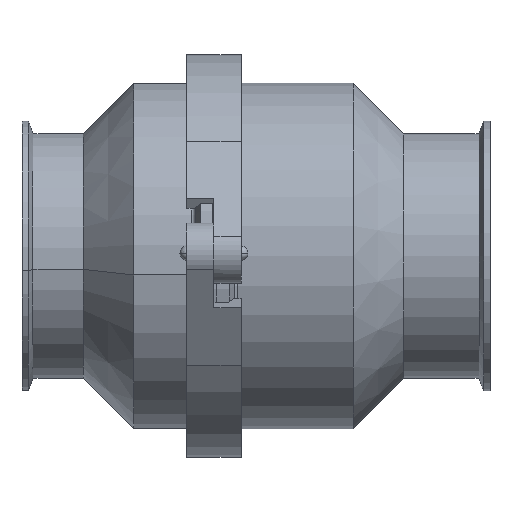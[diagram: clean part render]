
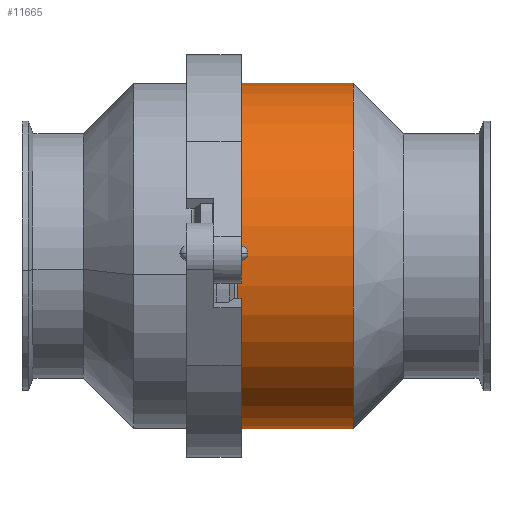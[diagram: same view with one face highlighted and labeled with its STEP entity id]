
A CAD part, left-side view. The second image highlights one B-rep face of the part: STEP entity #11665.
In plain terms, the highlighted cylindrical face has radius 76.2 mm (diameter 152.4 mm), a partial arc.
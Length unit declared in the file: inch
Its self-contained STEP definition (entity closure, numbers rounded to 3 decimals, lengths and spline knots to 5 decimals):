
#266 = CARTESIAN_POINT ( 'NONE',  ( 2.48413, 2.61539, 9.9424 ) ) ;
#352 = CARTESIAN_POINT ( 'NONE',  ( 2.48413, 2.98324, 6.9424 ) ) ;
#528 = CARTESIAN_POINT ( 'NONE',  ( 2.48413, 0.60824, 3.9424 ) ) ;
#582 = EDGE_CURVE ( 'NONE', #9228, #5249, #10992, .T. ) ;
#1033 = CIRCLE ( 'NONE', #5906, 3. ) ;
#1935 = CARTESIAN_POINT ( 'NONE',  ( 2.48413, 2.61539, 6.9424 ) ) ;
#2026 = CARTESIAN_POINT ( 'NONE',  ( 2.48413, 2.98324, 9.9424 ) ) ;
#2149 = EDGE_LOOP ( 'NONE', ( #9177, #7512, #6661, #6691 ) ) ;
#2546 = DIRECTION ( 'NONE',  ( 0., -1., 0. ) ) ;
#3003 = DIRECTION ( 'NONE',  ( 0., 0., -1. ) ) ;
#3100 = DIRECTION ( 'NONE',  ( 0., -1., 0. ) ) ;
#4588 = CARTESIAN_POINT ( 'NONE',  ( 2.48413, 2.61539, 3.9424 ) ) ;
#4630 = AXIS2_PLACEMENT_3D ( 'NONE', #352, #2546, #5792 ) ;
#4898 = FACE_OUTER_BOUND ( 'NONE', #2149, .T. ) ;
#5249 = VERTEX_POINT ( 'NONE', #528 ) ;
#5684 = CARTESIAN_POINT ( 'NONE',  ( 2.48413, 0.60824, 6.9424 ) ) ;
#5792 = DIRECTION ( 'NONE',  ( 0., 0., -1. ) ) ;
#5844 = VERTEX_POINT ( 'NONE', #266 ) ;
#5877 = EDGE_CURVE ( 'NONE', #10678, #5249, #1033, .T. ) ;
#5906 = AXIS2_PLACEMENT_3D ( 'NONE', #5684, #13029, #6748 ) ;
#6661 = ORIENTED_EDGE ( 'NONE', *, *, #582, .T. ) ;
#6691 = ORIENTED_EDGE ( 'NONE', *, *, #5877, .F. ) ;
#6712 = AXIS2_PLACEMENT_3D ( 'NONE', #1935, #9388, #3003 ) ;
#6748 = DIRECTION ( 'NONE',  ( 0., 0., -1. ) ) ;
#6878 = VECTOR ( 'NONE', #3100, 39.37008 ) ;
#7044 = DIRECTION ( 'NONE',  ( 0., -1., 0. ) ) ;
#7512 = ORIENTED_EDGE ( 'NONE', *, *, #12658, .T. ) ;
#7554 = CIRCLE ( 'NONE', #6712, 3. ) ;
#9177 = ORIENTED_EDGE ( 'NONE', *, *, #12726, .F. ) ;
#9228 = VERTEX_POINT ( 'NONE', #4588 ) ;
#9388 = DIRECTION ( 'NONE',  ( 0., -1., 0. ) ) ;
#9638 = CARTESIAN_POINT ( 'NONE',  ( 2.48413, 2.98324, 3.9424 ) ) ;
#10334 = VECTOR ( 'NONE', #7044, 39.37008 ) ;
#10678 = VERTEX_POINT ( 'NONE', #10990 ) ;
#10990 = CARTESIAN_POINT ( 'NONE',  ( 2.48413, 0.60824, 9.9424 ) ) ;
#10992 = LINE ( 'NONE', #9638, #10334 ) ;
#11665 = ADVANCED_FACE ( 'NONE', ( #4898 ), #12332, .T. ) ;
#12332 = CYLINDRICAL_SURFACE ( 'NONE', #4630, 3. ) ;
#12476 = LINE ( 'NONE', #2026, #6878 ) ;
#12658 = EDGE_CURVE ( 'NONE', #5844, #9228, #7554, .T. ) ;
#12726 = EDGE_CURVE ( 'NONE', #5844, #10678, #12476, .T. ) ;
#13029 = DIRECTION ( 'NONE',  ( 0., -1., 0. ) ) ;
